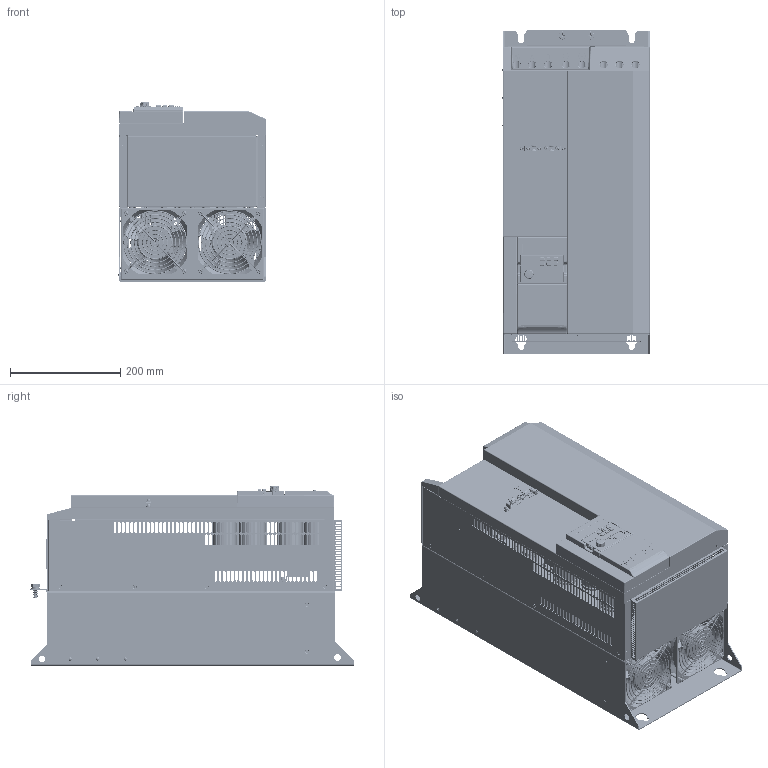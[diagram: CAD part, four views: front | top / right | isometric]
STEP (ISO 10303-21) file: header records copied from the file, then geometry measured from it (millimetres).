
FILE_DESCRIPTION((''),'2;1');
FILE_NAME('00_X610_45_ASM_ASM','2018-06-27T',('liw2xi'),(''),'PRO/ENGINEER BY PARAMETRIC TECHNOLOGY CORPORATION, 2009380','PRO/ENGINEER BY PARAMETRIC TECHNOLOGY CORPORATION, 2009380','');
FILE_SCHEMA(('STRUCTURAL_ANALYSIS_DESIGN'));
Length unit declared in the file: millimetre
Products named in the file (341): MANIFOLD_SOLID_BREP_4777; MANIFOLD_SOLID_BREP_4940; MANIFOLD_SOLID_BREP_5103; MANIFOLD_SOLID_BREP_5306; X610_45_FENGDAO__14_ASM; MANIFOLD_SOLID_BREP_9529; MANIFOLD_SOLID_BREP_9732; MANIFOLD_SOLID_BREP_9935; MANIFOLD_SOLID_BREP_10138; MANIFOLD_SOLID_BREP_10341; MANIFOLD_SOLID_BREP_10544; MANIFOLD_SOLID_BREP_10747; MANIFOLD_SOLID_BREP_10950; MANIFOLD_SOLID_BREP_11153; MANIFOLD_SOLID_BREP_11356; MANIFOLD_SOLID_BREP_11559; MANIFOLD_SOLID_BREP_11762; MANIFOLD_SOLID_BREP_11965; MANIFOLD_SOLID_BREP_12168; MANIFOLD_SOLID_BREP_12371; MANIFOLD_SOLID_BREP_12574; MANIFOLD_SOLID_BREP_12777; MANIFOLD_SOLID_BREP_12980; MANIFOLD_SOLID_BREP_13183; DC_CHOKE_HOLDER__2_ASM; A_3X8_GBT12615__2; PRT0156_4; BASE_SUPPORT_3; X610_45_FENGDAO__ASM_11_ASM; PRODUCT_155_1; PRT0159_1; PRT0160_1; PRT0161_1; PRT0162_1; PRT0163_1; PRT0164_1; ASM0087_ASM_1_ASM; PRT0165_1; PRT0166_1; PRT0167_1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
Assembly tree (573 placements, depth 7):
  00_X610_45_ASM_ASM
    00_X610_45_ASM_121_ASM
      X610_45_FENGDAO__ASM_11_ASM
        X610_45_FENGDAO__14_ASM
          MANIFOLD_SOLID_BREP_4777
          MANIFOLD_SOLID_BREP_4940
          MANIFOLD_SOLID_BREP_5103
          MANIFOLD_SOLID_BREP_5306
        DC_CHOKE_HOLDER__2_ASM
          MANIFOLD_SOLID_BREP_9529
          MANIFOLD_SOLID_BREP_9732
          MANIFOLD_SOLID_BREP_9935
          MANIFOLD_SOLID_BREP_10138
          MANIFOLD_SOLID_BREP_10341
          MANIFOLD_SOLID_BREP_10544
          MANIFOLD_SOLID_BREP_10747
          MANIFOLD_SOLID_BREP_10950
          MANIFOLD_SOLID_BREP_11153
          MANIFOLD_SOLID_BREP_11356
          MANIFOLD_SOLID_BREP_11559
          MANIFOLD_SOLID_BREP_11762
          MANIFOLD_SOLID_BREP_11965
          MANIFOLD_SOLID_BREP_12168
          MANIFOLD_SOLID_BREP_12371
          MANIFOLD_SOLID_BREP_12574
          MANIFOLD_SOLID_BREP_12777
          MANIFOLD_SOLID_BREP_12980
          MANIFOLD_SOLID_BREP_13183
        A_3X8_GBT12615__2  x3
        PRT0156_4  x2
        BASE_SUPPORT_3  x2
      DCL-0128_0174_-EIDC-7307__ASM_1_ASM  x2
        DCL-0180-EIDC-1804B_ASM_1_ASM
          PRODUCT_155_1  x4
          ASM0086_ASM_1_ASM
            PRT0159_1  x8
            PRT0160_1  x8
            PRT0161_1  x2
            PRT0162_1  x8
            ASM0087_ASM_1_ASM
              PRT0163_1
              PRT0164_1
            PRT0165_1  x8
            ASM0088_ASM_1_ASM
              PRT0166_1
              PRT0167_1
            PRT0168_1  x2
            PRT0169_1  x4
            ASM0089_ASM_1_ASM
              PRT0170_1
          PRT0171_1  x4
          ____1_1  x4
      LDZHJ_SZCYZT_M6X14_1  x23
      X610_45_ZHONGCENG__18_ASM
        MANIFOLD_SOLID_BREP_37448
        MANIFOLD_SOLID_BREP_37611
        MANIFOLD_SOLID_BREP_37774
        MANIFOLD_SOLID_BREP_37937
        MANIFOLD_SOLID_BREP_38100
        MANIFOLD_SOLID_BREP_38263
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Bounding box: 266.4 x 586.5 x 325.24 mm (x, y, z)
Volume: 7652690.6 mm3; surface area: 3754338.2 mm2
Topology: 563 solids, 569 shells, 31431 faces, 84867 edges, 55127 vertices
Faces by surface type: plane 15921, cylinder 10206, bspline 2053, torus 1354, cone 1325, extrusion 316, sphere 256
Entity records: 622345 total; most frequent: CARTESIAN_POINT 184024, ORIENTED_EDGE 90234, DIRECTION 89568, EDGE_CURVE 45117, AXIS2_PLACEMENT_3D 29892, VECTOR 29784, LINE 29566, VERTEX_POINT 29225
